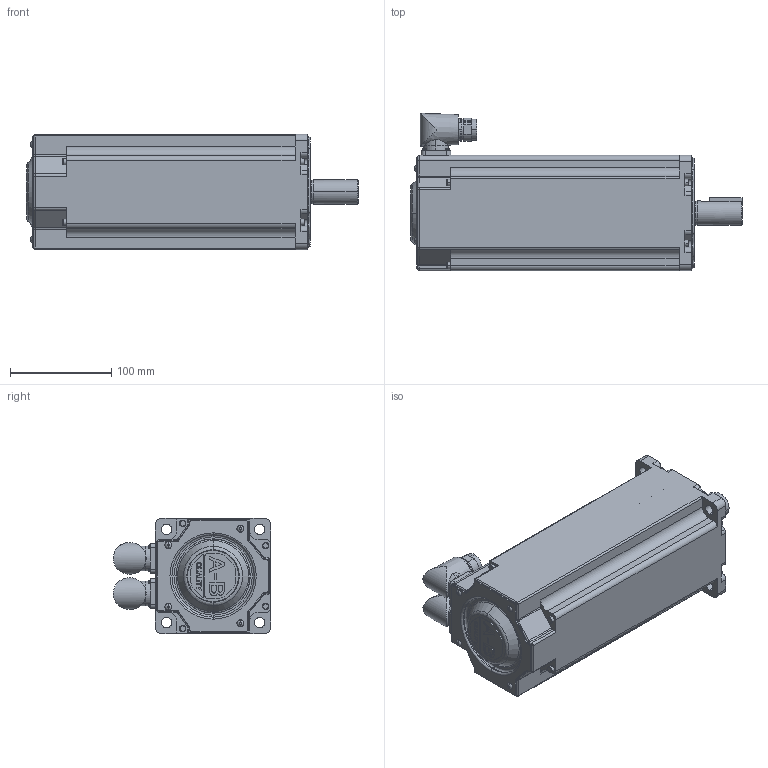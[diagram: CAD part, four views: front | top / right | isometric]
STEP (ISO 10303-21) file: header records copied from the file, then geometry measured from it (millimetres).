
FILE_DESCRIPTION (( 'STEP AP214' ), '1' );
FILE_NAME ('Rockwell Automation-MPM-B1304E-xx74xx.STEP', '2012-06-01T08:50:11', ( 'sysAdmin' ), ( 'SolidWorks' ), 'SwSTEP 2.0', 'SolidWorks 2012', '' );
FILE_SCHEMA (( 'AUTOMOTIVE_DESIGN' ));
Length unit declared in the file: inch
Products named in the file (5): Rockwell Automation-MPM-B1304E-xx74xx; Rockwell Automation-MPM-B1304E-xx74xx_Rockwell Automation-MPM_Medium_Inertia_Motor-MPM-B1304E-xx74xx_MPM-xxxx-Encoder Connector; Rockwell Automation-MPM-B1304E-xx74xx_Rockwell Automation-MPM_Medium_Inertia_Motor-MPM-B1304E-xx74xx_MPM-130x-Shaft_1304-SHAFT-KEY; Rockwell Automation-MPM-B1304E-xx74xx_Rockwell Automation-MPM_Medium_Inertia_Motor-MPM-B1304E-xx74xx_MPM-xxxx-Power Connector-M23; Rockwell Automation-MPM-B1304E-xx74xx_Rockwell Automation-MPM_Medium_Inertia_Motor-MPM-B1304E-xx74xx_MPM-130x-Body_1304-BRAKE
Assembly tree (4 placements, depth 2):
  Rockwell Automation-MPM-B1304E-xx74xx
    Rockwell Automation-MPM-B1304E-xx74xx_Rockwell Automation-MPM_Medium_Inertia_Motor-MPM-B1304E-xx74xx_MPM-130x-Body_1304-BRAKE
    Rockwell Automation-MPM-B1304E-xx74xx_Rockwell Automation-MPM_Medium_Inertia_Motor-MPM-B1304E-xx74xx_MPM-130x-Shaft_1304-SHAFT-KEY
    Rockwell Automation-MPM-B1304E-xx74xx_Rockwell Automation-MPM_Medium_Inertia_Motor-MPM-B1304E-xx74xx_MPM-xxxx-Encoder Connector
    Rockwell Automation-MPM-B1304E-xx74xx_Rockwell Automation-MPM_Medium_Inertia_Motor-MPM-B1304E-xx74xx_MPM-xxxx-Power Connector-M23
Bounding box: 327.89 x 155.45 x 113.79 mm (x, y, z)
Volume: 1642368.5 mm3; surface area: 296301.4 mm2
Topology: 5 solids, 5 shells, 1017 faces, 2509 edges, 1597 vertices
Faces by surface type: plane 408, cylinder 383, cone 99, torus 94, bspline 33
Entity records: 35326 total; most frequent: CARTESIAN_POINT 7595, DIRECTION 5446, ORIENTED_EDGE 5014, EDGE_CURVE 2507, AXIS2_PLACEMENT_3D 2059, VERTEX_POINT 1597, LINE 1328, VECTOR 1328
